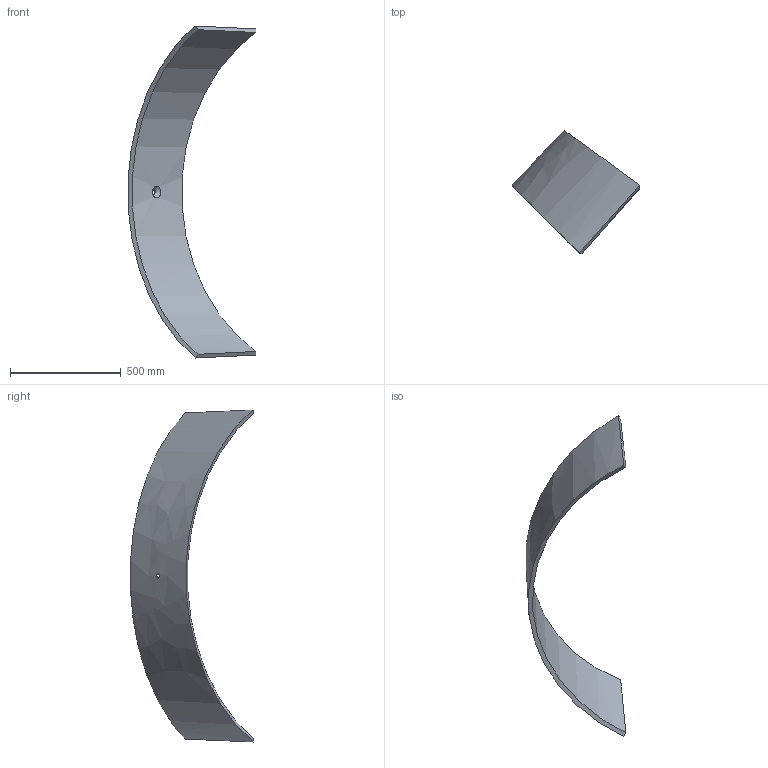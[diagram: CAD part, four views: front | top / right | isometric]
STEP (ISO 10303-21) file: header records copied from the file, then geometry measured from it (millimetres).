
FILE_DESCRIPTION (( 'STEP AP214' ), '1' );
FILE_NAME ('P8.1.STEP', '2025-01-09T19:43:28', ( '' ), ( '' ), 'SwSTEP 2.0', 'SolidWorks 2024', '' );
FILE_SCHEMA (( 'AUTOMOTIVE_DESIGN' ));
Length unit declared in the file: inch
Products named in the file (1): P8.1
Bounding box: 577.17 x 555.44 x 1498.3 mm (x, y, z)
Volume: 11932326.6 mm3; surface area: 1361423.2 mm2
Topology: 1 solids, 1 shells, 8 faces, 17 edges, 11 vertices
Faces by surface type: bspline 7, cylinder 1
Full cylindrical faces by diameter (mm): 19.431 x1
Entity records: 2709 total; most frequent: CARTESIAN_POINT 2561, ORIENTED_EDGE 30, EDGE_CURVE 15, B_SPLINE_CURVE_WITH_KNOTS 15, EDGE_LOOP 12, VERTEX_POINT 11, FACE_OUTER_BOUND 10, ADVANCED_FACE 8
